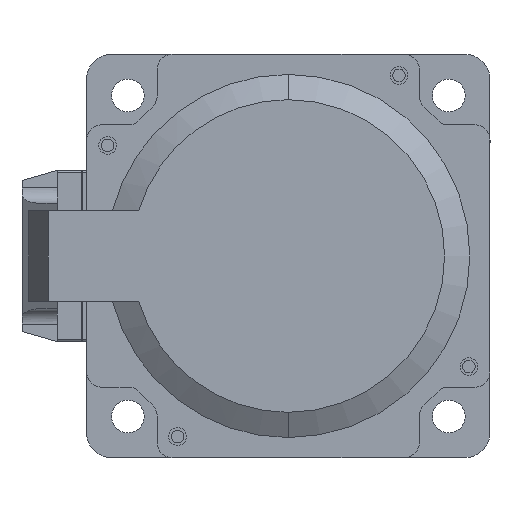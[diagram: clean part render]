
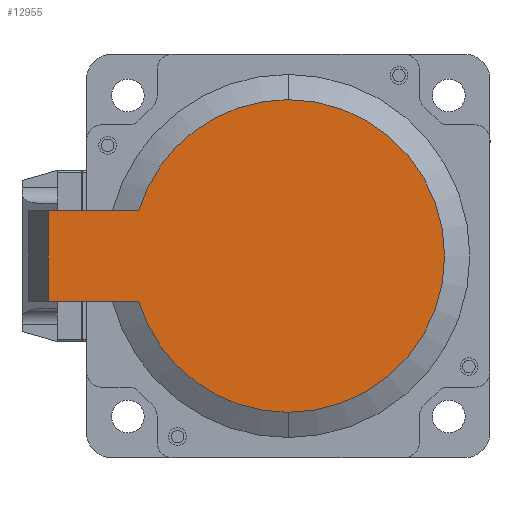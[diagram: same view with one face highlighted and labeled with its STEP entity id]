
A CAD part, left-side view. The second image highlights one B-rep face of the part: STEP entity #12955.
In plain terms, the highlighted planar face has unit normal (-1, 0, 0).
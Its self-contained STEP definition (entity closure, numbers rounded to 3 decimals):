
#497 = ORIENTED_EDGE ( 'NONE', *, *, #39149, .T. ) ;
#1027 = AXIS2_PLACEMENT_3D ( 'NONE', #19374, #8157, #19864 ) ;
#2419 = AXIS2_PLACEMENT_3D ( 'NONE', #46040, #4536, #3869 ) ;
#3869 = DIRECTION ( 'NONE',  ( 0., 0., -1. ) ) ;
#4457 = VECTOR ( 'NONE', #47943, 1000. ) ;
#4536 = DIRECTION ( 'NONE',  ( -1., 0., 0. ) ) ;
#4951 = DIRECTION ( 'NONE',  ( 0., 0., -1. ) ) ;
#7543 = CARTESIAN_POINT ( 'NONE',  ( -94.634, 89.237, -0.459 ) ) ;
#8113 = VERTEX_POINT ( 'NONE', #20118 ) ;
#8157 = DIRECTION ( 'NONE',  ( -1., 0., 0. ) ) ;
#8547 = CARTESIAN_POINT ( 'NONE',  ( -94.634, 118.902, 8.541 ) ) ;
#10053 = LINE ( 'NONE', #33685, #32936 ) ;
#10058 = EDGE_CURVE ( 'NONE', #49469, #32657, #18310, .T. ) ;
#12955 = ADVANCED_FACE ( 'NONE', ( #28313 ), #39717, .T. ) ;
#14079 = CIRCLE ( 'NONE', #1027, 31. ) ;
#15833 = EDGE_CURVE ( 'NONE', #44744, #32744, #14079, .T. ) ;
#16881 = ORIENTED_EDGE ( 'NONE', *, *, #31680, .F. ) ;
#18310 = CIRCLE ( 'NONE', #2419, 31. ) ;
#18909 = DIRECTION ( 'NONE',  ( -1., 0., 0. ) ) ;
#19110 = CARTESIAN_POINT ( 'NONE',  ( -94.634, 89.237, 30.541 ) ) ;
#19211 = AXIS2_PLACEMENT_3D ( 'NONE', #27939, #35873, #4951 ) ;
#19284 = ORIENTED_EDGE ( 'NONE', *, *, #10058, .T. ) ;
#19374 = CARTESIAN_POINT ( 'NONE',  ( -94.634, 89.237, -0.459 ) ) ;
#19864 = DIRECTION ( 'NONE',  ( 0., 0., -1. ) ) ;
#20118 = CARTESIAN_POINT ( 'NONE',  ( -94.634, 136.786, 8.541 ) ) ;
#20950 = ORIENTED_EDGE ( 'NONE', *, *, #34640, .T. ) ;
#21154 = CARTESIAN_POINT ( 'NONE',  ( -94.634, 136.786, -9.459 ) ) ;
#21492 = AXIS2_PLACEMENT_3D ( 'NONE', #7543, #18909, #37966 ) ;
#24437 = EDGE_LOOP ( 'NONE', ( #28799, #19284, #497, #40691, #20950, #16881 ) ) ;
#27939 = CARTESIAN_POINT ( 'NONE',  ( -94.634, 89.237, -31.459 ) ) ;
#28313 = FACE_OUTER_BOUND ( 'NONE', #24437, .T. ) ;
#28799 = ORIENTED_EDGE ( 'NONE', *, *, #36643, .F. ) ;
#30545 = VERTEX_POINT ( 'NONE', #40601 ) ;
#31504 = LINE ( 'NONE', #21154, #4457 ) ;
#31680 = EDGE_CURVE ( 'NONE', #30545, #8113, #44302, .T. ) ;
#32657 = VERTEX_POINT ( 'NONE', #49775 ) ;
#32744 = VERTEX_POINT ( 'NONE', #8547 ) ;
#32936 = VECTOR ( 'NONE', #45589, 1000. ) ;
#33081 = CARTESIAN_POINT ( 'NONE',  ( -94.634, 136.786, -9.459 ) ) ;
#33685 = CARTESIAN_POINT ( 'NONE',  ( -94.634, 136.786, 8.541 ) ) ;
#34074 = CARTESIAN_POINT ( 'NONE',  ( -94.634, 118.902, -9.459 ) ) ;
#34640 = EDGE_CURVE ( 'NONE', #32744, #8113, #10053, .T. ) ;
#35873 = DIRECTION ( 'NONE',  ( -1., 0., 0. ) ) ;
#36643 = EDGE_CURVE ( 'NONE', #49469, #30545, #31504, .T. ) ;
#37966 = DIRECTION ( 'NONE',  ( 0., 0., -1. ) ) ;
#39149 = EDGE_CURVE ( 'NONE', #32657, #44744, #39748, .T. ) ;
#39717 = PLANE ( 'NONE',  #19211 ) ;
#39748 = CIRCLE ( 'NONE', #21492, 31. ) ;
#40601 = CARTESIAN_POINT ( 'NONE',  ( -94.634, 136.786, -9.459 ) ) ;
#40691 = ORIENTED_EDGE ( 'NONE', *, *, #15833, .T. ) ;
#44175 = DIRECTION ( 'NONE',  ( 0., 0., 1. ) ) ;
#44302 = LINE ( 'NONE', #33081, #47954 ) ;
#44744 = VERTEX_POINT ( 'NONE', #19110 ) ;
#45589 = DIRECTION ( 'NONE',  ( 0., 1., 0. ) ) ;
#46040 = CARTESIAN_POINT ( 'NONE',  ( -94.634, 89.237, -0.459 ) ) ;
#47943 = DIRECTION ( 'NONE',  ( 0., 1., 0. ) ) ;
#47954 = VECTOR ( 'NONE', #44175, 1000. ) ;
#49469 = VERTEX_POINT ( 'NONE', #34074 ) ;
#49775 = CARTESIAN_POINT ( 'NONE',  ( -94.634, 89.237, -31.459 ) ) ;
